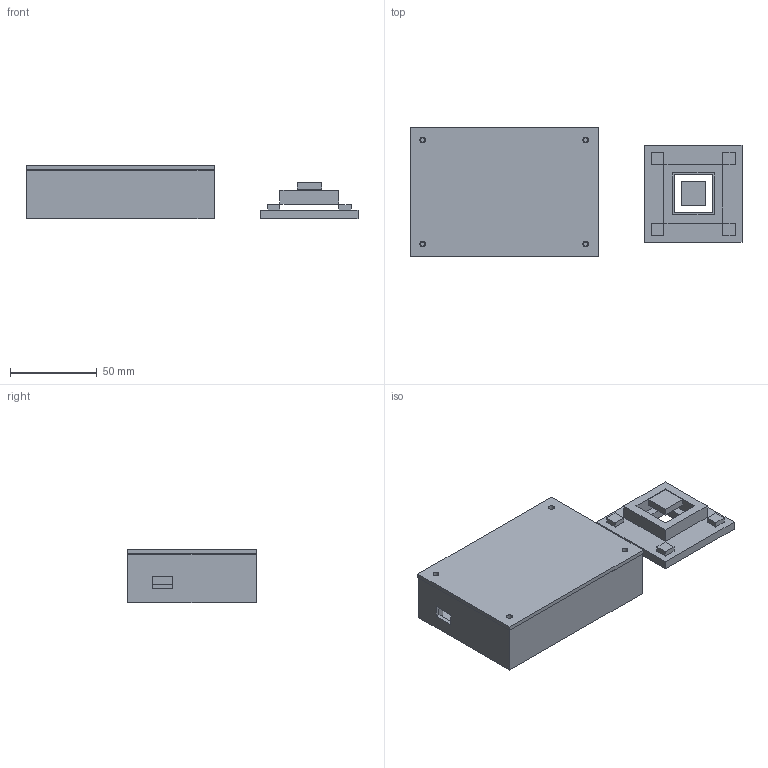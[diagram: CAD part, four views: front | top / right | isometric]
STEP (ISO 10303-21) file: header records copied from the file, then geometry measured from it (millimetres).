
FILE_DESCRIPTION(('Open CASCADE Model'),'2;1');
FILE_NAME('Open CASCADE Shape Model','2026-10-03T09:08:04',('Author'),( 'Open CASCADE'),'Open CASCADE STEP processor 7.8','Open CASCADE 7.8' ,'Unknown');
FILE_SCHEMA(('AUTOMOTIVE_DESIGN { 1 0 10303 214 1 1 1 1 }'));
Length unit declared in the file: millimetre
Products named in the file (9): bedsense-enclosure; base; lid; mcu; hx0; hx1; seat; loadcell; puck
Assembly tree (8 placements, depth 2):
  bedsense-enclosure
    base
    lid
    mcu
    hx0
    hx1
    seat
    loadcell
    puck
Bounding box: 191.4 x 74.8 x 30.8 mm (x, y, z)
Volume: 95091 mm3; surface area: 71345.3 mm2
Topology: 8 solids, 8 shells, 107 faces, 234 edges, 156 vertices
Faces by surface type: plane 93, cylinder 14
Full cylindrical faces by diameter (mm): 2.5 x4, 3.4 x4, 6 x2, 8 x4
Entity records: 6129 total; most frequent: CARTESIAN_POINT 1030, DIRECTION 906, LINE 590, VECTOR 590, ORIENTED_EDGE 468, PCURVE 468, DEFINITIONAL_REPRESENTATION 468, EDGE_CURVE 234
